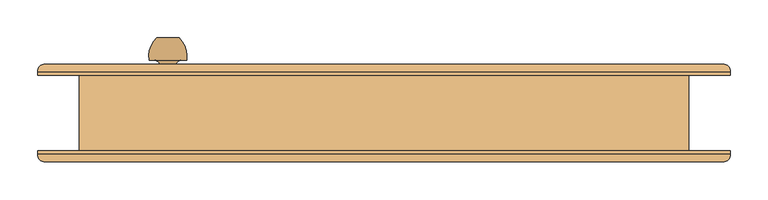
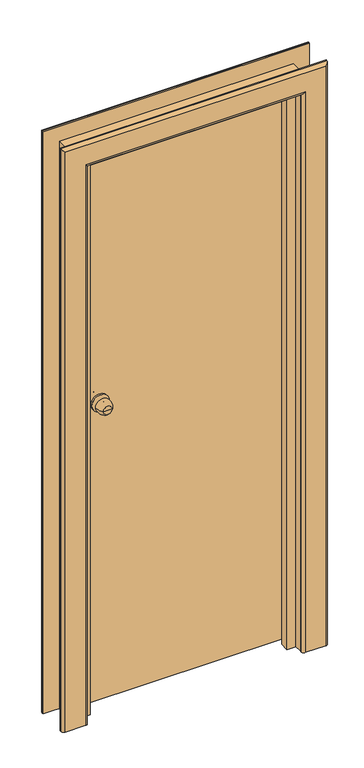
"""IFC4 building model written with IfcOpenShell, lengths in millimetres: door geometry, Внутренняя дверь 1-Навесная - 6629-88 : ДГ 21-8  ГОСТ 6629-88."""

from ifc_helpers import new_model, si_unit, point, frame, origin, place, context, project, spatial, polyline, circle_curve, ellipse_curve, trimmed, outline, extrude, faceted_brep, source, transform, mapped, element, save
from ifc_brep_helpers import plane_surface, cylinder_surface, revolved_surface, advanced_brep


def door_7940dafd(model_context):
    return source(origin(), model_context, "Body", "SolidModel", [
        advanced_brep(
        [(-272.0, 100.0, 1100.0), (-287.0, 100.0, 1100.0), (-302.0, 100.0, 1100.0), (-312.0, 70.0, 1100.0), (-262.0, 70.0, 1100.0), (-305.0, 70.0, 1100.0), (-269.0, 70.0, 1100.0), (-297.0, 62.0, 1100.0), (-277.0, 62.0, 1100.0), (-297.0, 56.0, 1100.0), (-277.0, 56.0, 1100.0), (-317.0, 56.0, 1100.0), (-257.0, 56.0, 1100.0), (-317.0, 50.0, 1100.0), (-257.0, 50.0, 1100.0)],
        [
            (0, 1),
            (1, 2),
            (2, 0, circle_curve(frame((-287.0, 100.0, 1100.0), z_axis=(0.0, 1.0, 0.0), x_axis=(-1.0, 0.0, 0.0)), 15.0)),
            (0, 2, circle_curve(frame((-287.0, 100.0, 1100.0), z_axis=(0.0, 1.0, 0.0), x_axis=(-1.0, 0.0, 0.0)), 15.0)),
            (2, 3, circle_curve(frame((-277.3773735, 75.1257912, 1100.0), z_axis=(0.0, 0.0, 1.0), x_axis=(1.0, 0.0, 0.0)), 35.0)),
            (3, 4, circle_curve(frame((-287.0, 70.0, 1100.0), z_axis=(0.0, 1.0, 0.0), x_axis=(-1.0, 0.0, 0.0)), 25.0)),
            (4, 0, circle_curve(frame((-296.6226265, 75.1257912, 1100.0), z_axis=(0.0, 0.0, 1.0), x_axis=(-1.0, 0.0, 0.0)), 35.0)),
            (4, 3, circle_curve(frame((-287.0, 70.0, 1100.0), z_axis=(0.0, 1.0, 0.0), x_axis=(-1.0, 0.0, 0.0)), 25.0)),
            (3, 5),
            (5, 6, circle_curve(frame((-287.0, 70.0, 1100.0), z_axis=(0.0, 1.0, 0.0), x_axis=(-1.0, 0.0, 0.0)), 18.0)),
            (6, 4),
            (6, 5, circle_curve(frame((-287.0, 70.0, 1100.0), z_axis=(0.0, 1.0, 0.0), x_axis=(-1.0, 0.0, 0.0)), 18.0)),
            (5, 7, circle_curve(frame((-305.0, 62.0, 1100.0), z_axis=(0.0, 0.0, -1.0), x_axis=(1.0, 0.0, 0.0)), 8.0)),
            (7, 8, circle_curve(frame((-287.0, 62.0, 1100.0), z_axis=(0.0, 1.0, 0.0), x_axis=(-1.0, 0.0, 0.0)), 10.0)),
            (8, 6, circle_curve(frame((-269.0, 62.0, 1100.0), z_axis=(0.0, 0.0, -1.0), x_axis=(-1.0, 0.0, 0.0)), 8.0)),
            (8, 7, circle_curve(frame((-287.0, 62.0, 1100.0), z_axis=(0.0, 1.0, 0.0), x_axis=(-1.0, 0.0, 0.0)), 10.0)),
            (7, 9),
            (9, 10, circle_curve(frame((-287.0, 56.0, 1100.0), z_axis=(0.0, 1.0, 0.0), x_axis=(-1.0, 0.0, 0.0)), 10.0)),
            (10, 8),
            (10, 9, circle_curve(frame((-287.0, 56.0, 1100.0), z_axis=(0.0, 1.0, 0.0), x_axis=(-1.0, 0.0, 0.0)), 10.0)),
            (11, 12, circle_curve(frame((-287.0, 56.0, 1100.0), z_axis=(0.0, 1.0, 0.0), x_axis=(1.0, 0.0, 0.0)), 30.0)),
            (12, 11, circle_curve(frame((-287.0, 56.0, 1100.0), z_axis=(0.0, 1.0, 0.0), x_axis=(1.0, 0.0, 0.0)), 30.0)),
            (13, 14, circle_curve(frame((-287.0, 50.0, 1100.0), z_axis=(0.0, -1.0, 0.0), x_axis=(1.0, 0.0, 0.0)), 30.0)),
            (14, 13, circle_curve(frame((-287.0, 50.0, 1100.0), z_axis=(0.0, -1.0, 0.0), x_axis=(1.0, 0.0, 0.0)), 30.0)),
            (12, 14),
            (13, 11),
        ],
        [
            plane_surface(frame((-287.0, 100.0, 1100.0), z_axis=(0.0, 1.0, 0.0), x_axis=(-1.0, 0.0, 0.0))),
            revolved_surface(trimmed(ellipse_curve(frame((-277.3773735, 75.1257912, 1100.0), z_axis=(0.0, 0.0, 1.0), x_axis=(1.0, 0.0, 0.0)), 35.0, 35.0), [point((-302.0, 100.0, 1100.0))], [point((-312.0, 70.0, 1100.0))], True, "CARTESIAN"), (-287.0, 130.0, 1100.0), (0.0, -1.0, 0.0)),
            plane_surface(frame((-287.0, 70.0, 1100.0), z_axis=(0.0, -1.0, 0.0), x_axis=(-1.0, 0.0, 0.0))),
            revolved_surface(trimmed(ellipse_curve(frame((-305.0, 62.0, 1100.0), z_axis=(0.0, 0.0, -1.0), x_axis=(1.0, 0.0, 0.0)), 8.0, 8.0), [point((-305.0, 70.0, 1100.0))], [point((-297.0, 62.0, 1100.0))], True, "CARTESIAN"), (-287.0, 130.0, 1100.0), (0.0, -1.0, 0.0)),
            cylinder_surface(frame((-287.0, 130.0, 1100.0), z_axis=(0.0, -1.0, 0.0), x_axis=(-1.0, 0.0, 0.0)), 10.0),
            plane_surface(frame((-257.0, 56.0, 1100.0), z_axis=(0.0, 1.0, 0.0), x_axis=(0.0, 0.0, 1.0))),
            plane_surface(frame((-257.0, 50.0, 1100.0), z_axis=(0.0, -1.0, 0.0), x_axis=(0.0, 0.0, -1.0))),
            cylinder_surface(frame((-287.0, 50.0, 1100.0), z_axis=(0.0, 1.0, 0.0), x_axis=(1.0, 0.0, 0.0)), 30.0),
        ],
        [
            (0, [[1, 2, 3]]),
            (0, [[-1, 4, -2]]),
            (1, [[5, 6, 7, -3]]),
            (1, [[-7, 8, -5, -4]]),
            (2, [[9, 10, 11, -6]]),
            (2, [[-11, 12, -9, -8]]),
            (3, [[13, 14, 15, -10]]),
            (3, [[-15, 16, -13, -12]]),
            (4, [[17, 18, 19, -14]]),
            (4, [[-19, 20, -17, -16]]),
            (5, [[21, 22], [-20, -18]]),
            (6, [[23, 24]]),
            (7, [[25, -23, 26, -22]]),
            (7, [[-26, -24, -25, -21]]),
        ],
    ),
        advanced_brep(
        [(-302.0, -37.0, 1100.0), (-287.0, -37.0, 1100.0), (-272.0, -37.0, 1100.0), (-262.0, -7.0, 1100.0), (-312.0, -7.0, 1100.0), (-269.0, -7.0, 1100.0), (-305.0, -7.0, 1100.0), (-277.0, 1.0, 1100.0), (-297.0, 1.0, 1100.0), (-277.0, 7.0, 1100.0), (-297.0, 7.0, 1100.0), (-257.0, 7.0, 1100.0), (-317.0, 7.0, 1100.0), (-257.0, 13.0, 1100.0), (-317.0, 13.0, 1100.0)],
        [
            (0, 1),
            (1, 2),
            (2, 0, circle_curve(frame((-287.0, -37.0, 1100.0), z_axis=(0.0, -1.0, 0.0), x_axis=(1.0, 0.0, 0.0)), 15.0)),
            (0, 2, circle_curve(frame((-287.0, -37.0, 1100.0), z_axis=(0.0, -1.0, 0.0), x_axis=(1.0, 0.0, 0.0)), 15.0)),
            (2, 3, circle_curve(frame((-296.6226265, -12.1257912, 1100.0), z_axis=(0.0, 0.0, 1.0), x_axis=(-1.0, 0.0, 0.0)), 35.0)),
            (3, 4, circle_curve(frame((-287.0, -7.0, 1100.0), z_axis=(0.0, -1.0, 0.0), x_axis=(1.0, 0.0, 0.0)), 25.0)),
            (4, 0, circle_curve(frame((-277.3773735, -12.1257912, 1100.0), z_axis=(0.0, 0.0, 1.0), x_axis=(1.0, 0.0, 0.0)), 35.0)),
            (4, 3, circle_curve(frame((-287.0, -7.0, 1100.0), z_axis=(0.0, -1.0, 0.0), x_axis=(1.0, 0.0, 0.0)), 25.0)),
            (3, 5),
            (5, 6, circle_curve(frame((-287.0, -7.0, 1100.0), z_axis=(0.0, -1.0, 0.0), x_axis=(1.0, 0.0, 0.0)), 18.0)),
            (6, 4),
            (6, 5, circle_curve(frame((-287.0, -7.0, 1100.0), z_axis=(0.0, -1.0, 0.0), x_axis=(1.0, 0.0, 0.0)), 18.0)),
            (5, 7, circle_curve(frame((-269.0, 1.0, 1100.0), z_axis=(0.0, 0.0, -1.0), x_axis=(-1.0, 0.0, 0.0)), 8.0)),
            (7, 8, circle_curve(frame((-287.0, 1.0, 1100.0), z_axis=(0.0, -1.0, 0.0), x_axis=(1.0, 0.0, 0.0)), 10.0)),
            (8, 6, circle_curve(frame((-305.0, 1.0, 1100.0), z_axis=(0.0, 0.0, -1.0), x_axis=(1.0, 0.0, 0.0)), 8.0)),
            (8, 7, circle_curve(frame((-287.0, 1.0, 1100.0), z_axis=(0.0, -1.0, 0.0), x_axis=(1.0, 0.0, 0.0)), 10.0)),
            (7, 9),
            (9, 10, circle_curve(frame((-287.0, 7.0, 1100.0), z_axis=(0.0, -1.0, 0.0), x_axis=(1.0, 0.0, 0.0)), 10.0)),
            (10, 8),
            (10, 9, circle_curve(frame((-287.0, 7.0, 1100.0), z_axis=(0.0, -1.0, 0.0), x_axis=(1.0, 0.0, 0.0)), 10.0)),
            (11, 12, circle_curve(frame((-287.0, 7.0, 1100.0), z_axis=(0.0, -1.0, 0.0), x_axis=(-1.0, 0.0, 0.0)), 30.0)),
            (12, 11, circle_curve(frame((-287.0, 7.0, 1100.0), z_axis=(0.0, -1.0, 0.0), x_axis=(-1.0, 0.0, 0.0)), 30.0)),
            (13, 14, circle_curve(frame((-287.0, 13.0, 1100.0), z_axis=(0.0, 1.0, 0.0), x_axis=(-1.0, 0.0, 0.0)), 30.0)),
            (14, 13, circle_curve(frame((-287.0, 13.0, 1100.0), z_axis=(0.0, 1.0, 0.0), x_axis=(-1.0, 0.0, 0.0)), 30.0)),
            (12, 14),
            (13, 11),
        ],
        [
            plane_surface(frame((-287.0, -37.0, 1100.0), z_axis=(0.0, -1.0, 0.0), x_axis=(1.0, 0.0, 0.0))),
            revolved_surface(trimmed(ellipse_curve(frame((-296.6226265, -12.1257912, 1100.0), z_axis=(0.0, 0.0, 1.0), x_axis=(-1.0, 0.0, 0.0)), 35.0, 35.0), [point((-272.0, -37.0, 1100.0))], [point((-262.0, -7.0, 1100.0))], True, "CARTESIAN"), (-287.0, -67.0, 1100.0), (0.0, 1.0, 0.0)),
            plane_surface(frame((-287.0, -7.0, 1100.0), z_axis=(0.0, 1.0, 0.0), x_axis=(1.0, 0.0, 0.0))),
            revolved_surface(trimmed(ellipse_curve(frame((-269.0, 1.0, 1100.0), z_axis=(0.0, 0.0, -1.0), x_axis=(-1.0, 0.0, 0.0)), 8.0, 8.0), [point((-269.0, -7.0, 1100.0))], [point((-277.0, 1.0, 1100.0))], True, "CARTESIAN"), (-287.0, -67.0, 1100.0), (0.0, 1.0, 0.0)),
            cylinder_surface(frame((-287.0, -67.0, 1100.0), z_axis=(0.0, 1.0, 0.0), x_axis=(1.0, 0.0, 0.0)), 10.0),
            plane_surface(frame((-317.0, 7.0, 1100.0), z_axis=(0.0, -1.0, 0.0), x_axis=(0.0, 0.0, 1.0))),
            plane_surface(frame((-317.0, 13.0, 1100.0), z_axis=(0.0, 1.0, 0.0), x_axis=(0.0, 0.0, -1.0))),
            cylinder_surface(frame((-287.0, 13.0, 1100.0), z_axis=(0.0, -1.0, 0.0), x_axis=(-1.0, 0.0, 0.0)), 30.0),
        ],
        [
            (0, [[1, 2, 3]]),
            (0, [[-1, 4, -2]]),
            (1, [[5, 6, 7, -3]]),
            (1, [[-7, 8, -5, -4]]),
            (2, [[9, 10, 11, -6]]),
            (2, [[-11, 12, -9, -8]]),
            (3, [[13, 14, 15, -10]]),
            (3, [[-15, 16, -13, -12]]),
            (4, [[17, 18, 19, -14]]),
            (4, [[-19, 20, -17, -16]]),
            (5, [[21, 22], [-20, -18]]),
            (6, [[23, 24]]),
            (7, [[25, -23, 26, -22]]),
            (7, [[-26, -24, -25, -21]]),
        ],
    ),
        extrude(outline(polyline([(0.0, 385.0), (2050.0, 385.0), (2050.0, -385.0), (0.0, -385.0), (0.0, -370.0), (2035.0, -370.0), (2035.0, 370.0), (0.0, 370.0), (0.0, 385.0)])), frame((0.0, -50.0, 0.0), z_axis=(0.0, 1.0, 0.0), x_axis=(0.0, 0.0, 1.0)), (0.0, 0.0, 1.0), 26.0),
        advanced_brep(
        [(-460.0, 50.0, 0.0), (-460.0, 55.0, 0.0), (-450.0, 65.0, 0.0), (-380.0, 65.0, 0.0), (-370.0, 55.0, 0.0), (-370.0, 50.0, 0.0), (-370.0, 50.0, 2035.0), (370.0, 50.0, 2035.0), (370.0, 50.0, 0.0), (460.0, 50.0, 0.0), (460.0, 50.0, 2125.0), (-460.0, 50.0, 2125.0), (-370.0, 55.0, 2035.0), (-380.0, 65.0, 2045.0), (-450.0, 65.0, 2115.0), (450.0, 65.0, 2115.0), (450.0, 65.0, 0.0), (380.0, 65.0, 0.0), (380.0, 65.0, 2045.0), (-460.0, 55.0, 2125.0), (460.0, 55.0, 0.0), (460.0, 55.0, 2125.0), (370.0, 55.0, 0.0), (370.0, 55.0, 2035.0)],
        [
            (0, 1),
            (1, 2, circle_curve(frame((-450.0, 55.0, 0.0), z_axis=(0.0, 0.0, -1.0), x_axis=(-1.0, 0.0, 0.0)), 10.0)),
            (2, 3),
            (3, 4, circle_curve(frame((-380.0, 55.0, 0.0), z_axis=(0.0, 0.0, -1.0), x_axis=(-1.0, 0.0, 0.0)), 10.0)),
            (4, 5),
            (5, 0),
            (5, 6),
            (6, 7),
            (7, 8),
            (8, 9),
            (9, 10),
            (10, 11),
            (11, 0),
            (4, 12),
            (12, 6),
            (3, 13),
            (13, 12, ellipse_curve(frame((-380.0, 55.0, 2045.0), z_axis=(-0.7071067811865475, 0.0, -0.7071067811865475), x_axis=(0.7071067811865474, 0.0, -0.7071067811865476)), 14.1421356, 10.0)),
            (2, 14),
            (14, 15),
            (15, 16),
            (16, 17),
            (17, 18),
            (18, 13),
            (1, 19),
            (19, 14, ellipse_curve(frame((-450.0, 55.0, 2115.0), z_axis=(-0.7071067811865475, 0.0, -0.7071067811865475), x_axis=(0.7071067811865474, 0.0, -0.7071067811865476)), 14.1421356, 10.0)),
            (11, 19),
            (9, 20),
            (20, 21),
            (21, 10),
            (8, 22),
            (22, 17, circle_curve(frame((380.0, 55.0, 0.0), z_axis=(0.0, 0.0, -1.0), x_axis=(1.0, 0.0, 0.0)), 10.0)),
            (16, 20, circle_curve(frame((450.0, 55.0, 0.0), z_axis=(0.0, 0.0, -1.0), x_axis=(1.0, 0.0, 0.0)), 10.0)),
            (23, 22),
            (7, 23),
            (23, 18, ellipse_curve(frame((380.0, 55.0, 2045.0), z_axis=(0.7071067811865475, 0.0, -0.7071067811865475), x_axis=(0.7071067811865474, 0.0, 0.7071067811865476)), 14.1421356, 10.0)),
            (15, 21, ellipse_curve(frame((450.0, 55.0, 2115.0), z_axis=(0.7071067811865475, 0.0, -0.7071067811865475), x_axis=(0.7071067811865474, 0.0, 0.7071067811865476)), 14.1421356, 10.0)),
            (12, 23),
            (19, 21),
        ],
        [
            plane_surface(frame((-405.0, 50.0, 0.0), z_axis=(0.0, 0.0, -1.0), x_axis=(0.0, -1.0, 0.0))),
            plane_surface(frame((-460.0, 50.0, 0.0), z_axis=(0.0, -1.0, 0.0), x_axis=(0.0, 0.0, 1.0))),
            plane_surface(frame((-370.0, 50.0, 0.0), z_axis=(1.0, 0.0, 0.0), x_axis=(0.0, 0.0, 1.0))),
            cylinder_surface(frame((-380.0, 55.0, 0.0), z_axis=(0.0, 0.0, -1.0), x_axis=(-1.0, 0.0, 0.0)), 10.0),
            plane_surface(frame((-380.0, 65.0, 0.0), z_axis=(0.0, 1.0, 0.0), x_axis=(0.0, 0.0, 1.0))),
            cylinder_surface(frame((-450.0, 55.0, 0.0), z_axis=(0.0, 0.0, -1.0), x_axis=(-1.0, 0.0, 0.0)), 10.0),
            plane_surface(frame((-460.0, 55.0, 0.0), z_axis=(-1.0, 0.0, 0.0), x_axis=(0.0, 0.0, 1.0))),
            plane_surface(frame((460.0, 55.0, 2125.0), z_axis=(1.0, 0.0, 0.0), x_axis=(0.0, 0.0, -1.0))),
            plane_surface(frame((405.0, 50.0, 0.0), z_axis=(0.0, 0.0, -1.0), x_axis=(0.0, -1.0, 0.0))),
            plane_surface(frame((370.0, 50.0, 2035.0), z_axis=(-1.0, 0.0, 0.0), x_axis=(0.0, 0.0, -1.0))),
            cylinder_surface(frame((380.0, 55.0, 2070.0), z_axis=(0.0, 0.0, 1.0), x_axis=(1.0, 0.0, 0.0)), 10.0),
            cylinder_surface(frame((450.0, 55.0, 2070.0), z_axis=(0.0, 0.0, 1.0), x_axis=(1.0, 0.0, 0.0)), 10.0),
            plane_surface(frame((-370.0, 50.0, 2035.0), z_axis=(0.0, 0.0, -1.0), x_axis=(1.0, 0.0, 0.0))),
            cylinder_surface(frame((-405.0, 55.0, 2045.0), z_axis=(-1.0, 0.0, 0.0), x_axis=(0.0, 0.0, 1.0)), 10.0),
            cylinder_surface(frame((-405.0, 55.0, 2115.0), z_axis=(-1.0, 0.0, 0.0), x_axis=(0.0, 0.0, 1.0)), 10.0),
            plane_surface(frame((-460.0, 55.0, 2125.0), z_axis=(0.0, 0.0, 1.0), x_axis=(1.0, 0.0, 0.0))),
        ],
        [
            (0, [[1, 2, 3, 4, 5, 6]]),
            (1, [[7, 8, 9, 10, 11, 12, 13, -6]]),
            (2, [[14, 15, -7, -5]]),
            (3, [[16, 17, -14, -4]]),
            (4, [[18, 19, 20, 21, 22, 23, -16, -3]]),
            (5, [[24, 25, -18, -2]]),
            (6, [[-13, 26, -24, -1]]),
            (7, [[-11, 27, 28, 29]]),
            (8, [[-10, 30, 31, -21, 32, -27]]),
            (9, [[33, -30, -9, 34]]),
            (10, [[-22, -31, -33, 35]]),
            (11, [[-28, -32, -20, 36]]),
            (12, [[37, -34, -8, -15]]),
            (13, [[-23, -35, -37, -17]]),
            (14, [[38, -36, -19, -25]]),
            (15, [[-12, -29, -38, -26]]),
        ],
    ),
        advanced_brep(
        [(460.0, -50.0, 0.0), (460.0, -55.0, 0.0), (450.0, -65.0, 0.0), (380.0, -65.0, 0.0), (370.0, -55.0, 0.0), (370.0, -50.0, 0.0), (370.0, -50.0, 2035.0), (-370.0, -50.0, 2035.0), (-370.0, -50.0, 0.0), (-460.0, -50.0, 0.0), (-460.0, -50.0, 2125.0), (460.0, -50.0, 2125.0), (370.0, -55.0, 2035.0), (380.0, -65.0, 2045.0), (450.0, -65.0, 2115.0), (-450.0, -65.0, 2115.0), (-450.0, -65.0, 0.0), (-380.0, -65.0, 0.0), (-380.0, -65.0, 2045.0), (460.0, -55.0, 2125.0), (-460.0, -55.0, 0.0), (-460.0, -55.0, 2125.0), (-370.0, -55.0, 0.0), (-370.0, -55.0, 2035.0)],
        [
            (0, 1),
            (1, 2, circle_curve(frame((450.0, -55.0, 0.0), z_axis=(0.0, 0.0, -1.0), x_axis=(1.0, 0.0, 0.0)), 10.0)),
            (2, 3),
            (3, 4, circle_curve(frame((380.0, -55.0, 0.0), z_axis=(0.0, 0.0, -1.0), x_axis=(1.0, 0.0, 0.0)), 10.0)),
            (4, 5),
            (5, 0),
            (5, 6),
            (6, 7),
            (7, 8),
            (8, 9),
            (9, 10),
            (10, 11),
            (11, 0),
            (4, 12),
            (12, 6),
            (3, 13),
            (13, 12, ellipse_curve(frame((380.0, -55.0, 2045.0), z_axis=(0.7071067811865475, 0.0, -0.7071067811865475), x_axis=(-0.7071067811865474, 0.0, -0.7071067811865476)), 14.1421356, 10.0)),
            (2, 14),
            (14, 15),
            (15, 16),
            (16, 17),
            (17, 18),
            (18, 13),
            (1, 19),
            (19, 14, ellipse_curve(frame((450.0, -55.0, 2115.0), z_axis=(0.7071067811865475, 0.0, -0.7071067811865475), x_axis=(-0.7071067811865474, 0.0, -0.7071067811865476)), 14.1421356, 10.0)),
            (11, 19),
            (9, 20),
            (20, 21),
            (21, 10),
            (8, 22),
            (22, 17, circle_curve(frame((-380.0, -55.0, 0.0), z_axis=(0.0, 0.0, -1.0), x_axis=(-1.0, 0.0, 0.0)), 10.0)),
            (16, 20, circle_curve(frame((-450.0, -55.0, 0.0), z_axis=(0.0, 0.0, -1.0), x_axis=(-1.0, 0.0, 0.0)), 10.0)),
            (23, 22),
            (7, 23),
            (23, 18, ellipse_curve(frame((-380.0, -55.0, 2045.0), z_axis=(-0.7071067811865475, 0.0, -0.7071067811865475), x_axis=(-0.7071067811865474, 0.0, 0.7071067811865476)), 14.1421356, 10.0)),
            (15, 21, ellipse_curve(frame((-450.0, -55.0, 2115.0), z_axis=(-0.7071067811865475, 0.0, -0.7071067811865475), x_axis=(-0.7071067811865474, 0.0, 0.7071067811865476)), 14.1421356, 10.0)),
            (12, 23),
            (19, 21),
        ],
        [
            plane_surface(frame((405.0, -50.0, 0.0), z_axis=(0.0, 0.0, -1.0), x_axis=(0.0, 1.0, 0.0))),
            plane_surface(frame((460.0, -50.0, 0.0), z_axis=(0.0, 1.0, 0.0), x_axis=(0.0, 0.0, 1.0))),
            plane_surface(frame((370.0, -50.0, 0.0), z_axis=(-1.0, 0.0, 0.0), x_axis=(0.0, 0.0, 1.0))),
            cylinder_surface(frame((380.0, -55.0, 0.0), z_axis=(0.0, 0.0, -1.0), x_axis=(1.0, 0.0, 0.0)), 10.0),
            plane_surface(frame((380.0, -65.0, 0.0), z_axis=(0.0, -1.0, 0.0), x_axis=(0.0, 0.0, 1.0))),
            cylinder_surface(frame((450.0, -55.0, 0.0), z_axis=(0.0, 0.0, -1.0), x_axis=(1.0, 0.0, 0.0)), 10.0),
            plane_surface(frame((460.0, -55.0, 0.0), z_axis=(1.0, 0.0, 0.0), x_axis=(0.0, 0.0, 1.0))),
            plane_surface(frame((-460.0, -55.0, 2125.0), z_axis=(-1.0, 0.0, 0.0), x_axis=(0.0, 0.0, -1.0))),
            plane_surface(frame((-405.0, -50.0, 0.0), z_axis=(0.0, 0.0, -1.0), x_axis=(0.0, 1.0, 0.0))),
            plane_surface(frame((-370.0, -50.0, 2035.0), z_axis=(1.0, 0.0, 0.0), x_axis=(0.0, 0.0, -1.0))),
            cylinder_surface(frame((-380.0, -55.0, 2070.0), z_axis=(0.0, 0.0, 1.0), x_axis=(-1.0, 0.0, 0.0)), 10.0),
            cylinder_surface(frame((-450.0, -55.0, 2070.0), z_axis=(0.0, 0.0, 1.0), x_axis=(-1.0, 0.0, 0.0)), 10.0),
            plane_surface(frame((370.0, -50.0, 2035.0), z_axis=(0.0, 0.0, -1.0), x_axis=(-1.0, 0.0, 0.0))),
            cylinder_surface(frame((405.0, -55.0, 2045.0), z_axis=(1.0, 0.0, 0.0), x_axis=(0.0, 0.0, 1.0)), 10.0),
            cylinder_surface(frame((405.0, -55.0, 2115.0), z_axis=(1.0, 0.0, 0.0), x_axis=(0.0, 0.0, 1.0)), 10.0),
            plane_surface(frame((460.0, -55.0, 2125.0), z_axis=(0.0, 0.0, 1.0), x_axis=(-1.0, 0.0, 0.0))),
        ],
        [
            (0, [[1, 2, 3, 4, 5, 6]]),
            (1, [[7, 8, 9, 10, 11, 12, 13, -6]]),
            (2, [[14, 15, -7, -5]]),
            (3, [[16, 17, -14, -4]]),
            (4, [[18, 19, 20, 21, 22, 23, -16, -3]]),
            (5, [[24, 25, -18, -2]]),
            (6, [[-13, 26, -24, -1]]),
            (7, [[-11, 27, 28, 29]]),
            (8, [[-10, 30, 31, -21, 32, -27]]),
            (9, [[33, -30, -9, 34]]),
            (10, [[-22, -31, -33, 35]]),
            (11, [[-28, -32, -20, 36]]),
            (12, [[37, -34, -8, -15]]),
            (13, [[-23, -35, -37, -17]]),
            (14, [[38, -36, -19, -25]]),
            (15, [[-12, -29, -38, -26]]),
        ],
    ),
        faceted_brep([(340.0, -24.0, 0.0), (340.0, 8.0, 0.0), (352.0, 8.0, 0.0), (352.0, 50.0, 0.0), (385.0, 50.0, 0.0), (385.0, -24.0, 0.0), (385.0, -24.0, 2050.0), (-385.0, -24.0, 2050.0), (-385.0, -24.0, 0.0), (-340.0, -24.0, 0.0), (-340.0, -24.0, 2005.0), (340.0, -24.0, 2005.0), (385.0, 50.0, 2050.0), (352.0, 50.0, 2017.0), (-352.0, 50.0, 2017.0), (-352.0, 50.0, 0.0), (-385.0, 50.0, 0.0), (-385.0, 50.0, 2050.0), (352.0, 8.0, 2017.0), (340.0, 8.0, 2005.0), (-340.0, 8.0, 2005.0), (-340.0, 8.0, 0.0), (-352.0, 8.0, 0.0), (-352.0, 8.0, 2017.0)], [[[0, 1, 2, 3, 4, 5]], [[5, 6, 7, 8, 9, 10, 11, 0]], [[4, 12, 6, 5]], [[3, 13, 14, 15, 16, 17, 12, 4]], [[2, 18, 13, 3]], [[1, 19, 20, 21, 22, 23, 18, 2]], [[0, 11, 19, 1]], [[10, 9, 21, 20]], [[9, 8, 16, 15, 22, 21]], [[17, 16, 8, 7]], [[23, 22, 15, 14]], [[12, 17, 7, 6]], [[18, 23, 14, 13]], [[11, 10, 20, 19]]]),
        extrude(outline(polyline([(0.0, 405.0), (2070.0, 405.0), (2070.0, -405.0), (0.0, -405.0), (0.0, -385.0), (2050.0, -385.0), (2050.0, 385.0), (0.0, 385.0), (0.0, 405.0)])), frame((0.0, -50.0, 0.0), z_axis=(0.0, 1.0, 0.0), x_axis=(0.0, 0.0, 1.0)), (0.0, 0.0, 1.0), 100.0),
        extrude(outline(polyline([(347.0, 13.0), (-347.0, 13.0), (-347.0, 50.0), (347.0, 50.0), (347.0, 13.0)])), frame((0.0, 0.0, 15.0), z_axis=(0.0, 0.0, 1.0), x_axis=(1.0, 0.0, 0.0)), (0.0, 0.0, 1.0), 1997.0),
    ])


if __name__ == "__main__":
    model = new_model("IFC4")
    model_context = context("Model", 3, world=origin())
    ifc_project = project(units=[si_unit("LENGTHUNIT", "METRE", prefix="MILLI")], contexts=[model_context])
    site = spatial("IfcSite", under=ifc_project)
    building = spatial("IfcBuilding", under=site)
    placement = place(None, origin())
    door_shape = door_7940dafd(model_context)
    element("IfcDoor", 1, ObjectType="Внутренняя дверь 1-Навесная - 6629-88 : ДГ 21-8  ГОСТ 6629-88", at=placement, inside=building, context=model_context, shape_type="MappedRepresentation", body=[
        mapped(door_shape, transform((0.0, 0.0, 0.0), x_axis=(1.0, 0.0, 0.0), y_axis=(0.0, 1.0, 0.0), z_axis=(0.0, 0.0, 1.0))),
    ])
    save(model, "model.ifc")
